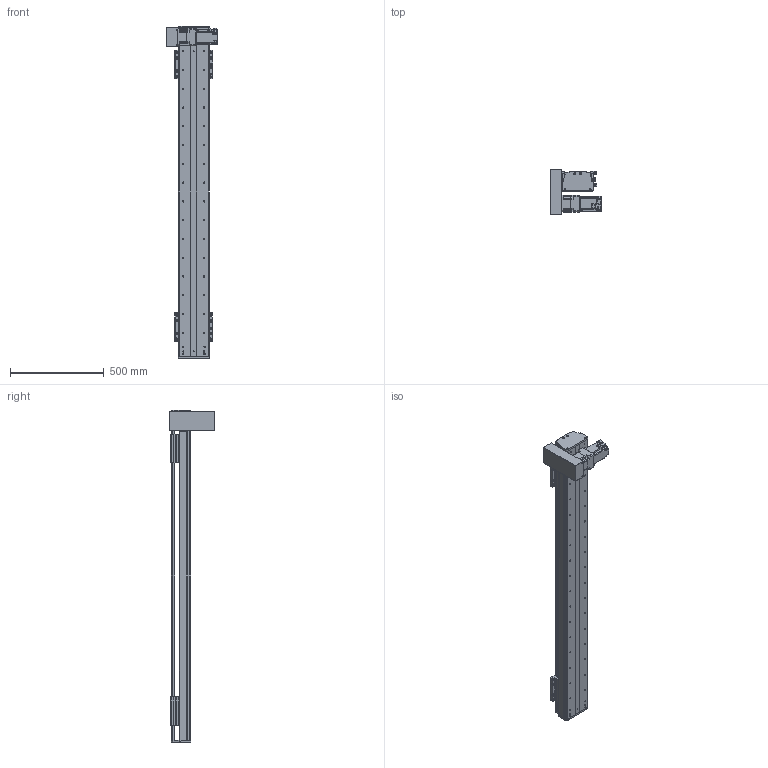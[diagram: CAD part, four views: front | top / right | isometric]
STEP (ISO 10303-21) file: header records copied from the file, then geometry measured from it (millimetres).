
FILE_DESCRIPTION(/* description */ (''),/* implementation_level */ '2;1');
FILE_NAME(/* name */ 'C:\Users\PC\Desktop\3D도면\STEP\DSB165-DL7G-W1400-R.stp',/* time_stamp */ '2018-06-25T15:39:27+09:00',/* author */ ('PC'),/* organization */ (''),/* preprocessor_version */ 'ST-DEVELOPER v16.5',/* originating_system */ 'Autodesk Inventor 2017',/* authorisation */ '');
FILE_SCHEMA (('AUTOMOTIVE_DESIGN { 1 0 10303 214 3 1 1 }'));
Length unit declared in the file: millimetre
Products named in the file (12): DSB165-L; DSR165-BASE_S; hg-kr73_; ab0901-p0401300102; 11-DBS165 BELT COVER; DBS165-COVER; DBS165-COVER_1; DBS165-UP COVER; DBS165-TABLE(MSA20S); DSR126-SENSOR DOG; SENSOR BRACKET(EE-SX674A); pm-y65_step
Assembly tree (16 placements, depth 2):
  DSB165-L
    DSR165-BASE_S
    hg-kr73_
    ab0901-p0401300102
    11-DBS165 BELT COVER
    DBS165-COVER
    DBS165-COVER_1
    DBS165-UP COVER
    DBS165-TABLE(MSA20S)  x2
    DSR126-SENSOR DOG
    pm-y65_step  x3
    SENSOR BRACKET(EE-SX674A)  x3
Bounding box: 270 x 242 x 1770 mm (x, y, z)
Volume: 10696543 mm3; surface area: 2488503.8 mm2
Topology: 17 solids, 22 shells, 1691 faces, 4535 edges, 2988 vertices
Faces by surface type: plane 926, cylinder 631, cone 122, sphere 8, torus 4
Full cylindrical faces by diameter (mm): 2.459 x20, 3.5 x6, 4.134 x42, 4.5 x18, 5 x27, 5.5 x36, 5.9 x4, 6 x8, 6.6 x14, 6.647 x50, 6.8 x1, 7 x4, 7.6 x4, 8 x1, 8.4 x1, 8.5 x24, 8.7 x1, 9.5 x32, 11 x6, 14 x16, 19 x1, 22 x1, 24 x1, 25 x1, 28 x1, 67 x1, 70 x2, 80 x1
Entity records: 35949 total; most frequent: DIRECTION 6364, CARTESIAN_POINT 6151, ORIENTED_EDGE 5582, EDGE_CURVE 2796, AXIS2_PLACEMENT_3D 2352, VERTEX_POINT 2001, EDGE_LOOP 1779, LINE 1660
